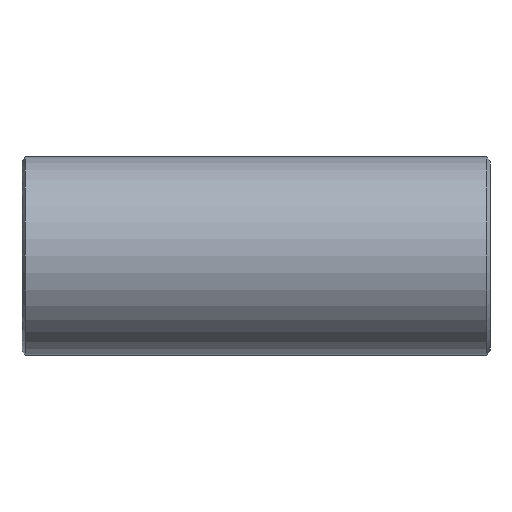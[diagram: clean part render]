
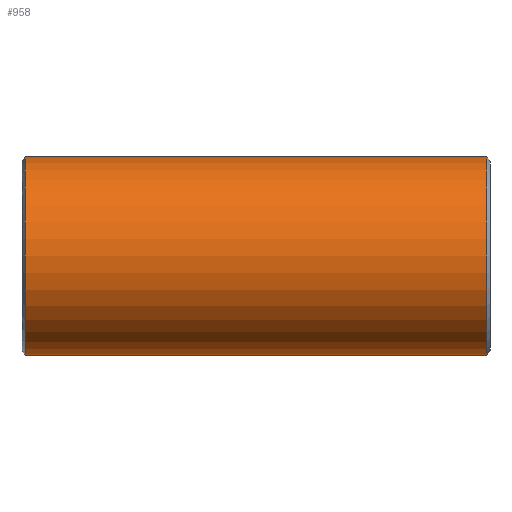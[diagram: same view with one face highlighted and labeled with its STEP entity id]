
A CAD part, front view. The second image highlights one B-rep face of the part: STEP entity #958.
In plain terms, the highlighted cylindrical face has radius 24.3 mm (diameter 48.6 mm), a partial arc.
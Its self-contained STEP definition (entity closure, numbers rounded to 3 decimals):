
#66 = VERTEX_POINT ( 'NONE', #632 ) ;
#81 = DIRECTION ( 'NONE',  ( 0., 0., 1. ) ) ;
#85 = CARTESIAN_POINT ( 'NONE',  ( 56.436, 0., 0. ) ) ;
#88 = LINE ( 'NONE', #1391, #1665 ) ;
#164 = EDGE_LOOP ( 'NONE', ( #340, #854, #986, #364 ) ) ;
#189 = CARTESIAN_POINT ( 'NONE',  ( 56.436, 0., 24.3 ) ) ;
#212 = VERTEX_POINT ( 'NONE', #1908 ) ;
#232 = DIRECTION ( 'NONE',  ( -1., 0., 0. ) ) ;
#340 = ORIENTED_EDGE ( 'NONE', *, *, #1541, .F. ) ;
#343 = CARTESIAN_POINT ( 'NONE',  ( -56.436, 0., 0. ) ) ;
#355 = DIRECTION ( 'NONE',  ( -1., 0., 0. ) ) ;
#364 = ORIENTED_EDGE ( 'NONE', *, *, #1688, .F. ) ;
#371 = VERTEX_POINT ( 'NONE', #189 ) ;
#459 = AXIS2_PLACEMENT_3D ( 'NONE', #85, #232, #576 ) ;
#489 = AXIS2_PLACEMENT_3D ( 'NONE', #343, #1604, #1615 ) ;
#559 = CIRCLE ( 'NONE', #459, 24.3 ) ;
#576 = DIRECTION ( 'NONE',  ( 0., 0., 1. ) ) ;
#630 = VERTEX_POINT ( 'NONE', #1287 ) ;
#632 = CARTESIAN_POINT ( 'NONE',  ( -56.436, 0., -24.3 ) ) ;
#668 = LINE ( 'NONE', #1000, #952 ) ;
#854 = ORIENTED_EDGE ( 'NONE', *, *, #1804, .T. ) ;
#888 = AXIS2_PLACEMENT_3D ( 'NONE', #900, #1222, #81 ) ;
#900 = CARTESIAN_POINT ( 'NONE',  ( 57.2, 0., 0. ) ) ;
#952 = VECTOR ( 'NONE', #1306, 1000. ) ;
#958 = ADVANCED_FACE ( 'NONE', ( #1528 ), #1349, .T. ) ;
#986 = ORIENTED_EDGE ( 'NONE', *, *, #1440, .T. ) ;
#1000 = CARTESIAN_POINT ( 'NONE',  ( 57.2, 0., -24.3 ) ) ;
#1222 = DIRECTION ( 'NONE',  ( -1., 0., 0. ) ) ;
#1287 = CARTESIAN_POINT ( 'NONE',  ( -56.436, 0., 24.3 ) ) ;
#1306 = DIRECTION ( 'NONE',  ( -1., 0., 0. ) ) ;
#1349 = CYLINDRICAL_SURFACE ( 'NONE', #888, 24.3 ) ;
#1391 = CARTESIAN_POINT ( 'NONE',  ( 57.2, 0., 24.3 ) ) ;
#1440 = EDGE_CURVE ( 'NONE', #371, #630, #88, .T. ) ;
#1445 = CIRCLE ( 'NONE', #489, 24.3 ) ;
#1528 = FACE_OUTER_BOUND ( 'NONE', #164, .T. ) ;
#1541 = EDGE_CURVE ( 'NONE', #212, #66, #668, .T. ) ;
#1604 = DIRECTION ( 'NONE',  ( -1., 0., 0. ) ) ;
#1615 = DIRECTION ( 'NONE',  ( 0., 0., 1. ) ) ;
#1665 = VECTOR ( 'NONE', #355, 1000. ) ;
#1688 = EDGE_CURVE ( 'NONE', #66, #630, #1445, .T. ) ;
#1804 = EDGE_CURVE ( 'NONE', #212, #371, #559, .T. ) ;
#1908 = CARTESIAN_POINT ( 'NONE',  ( 56.436, 0., -24.3 ) ) ;
